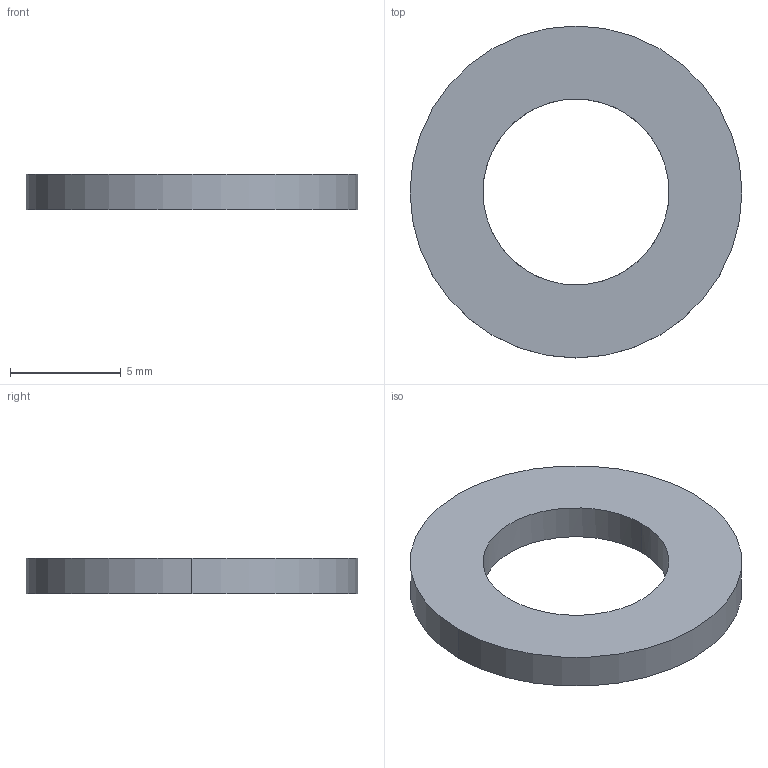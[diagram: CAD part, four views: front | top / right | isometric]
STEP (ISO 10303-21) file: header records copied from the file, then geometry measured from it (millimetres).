
FILE_DESCRIPTION(('3DEXPERIENCE STEP','CAx-IF Rec.Pracs.--- Model Styling and Organization---1.5--- 2016-08-15','CAx-IF Rec.Pracs.---Supplemental Geometry---1.0---2011-11-01','CAx-IF Rec.Pracs.--- Composite Materials ---3.4---2017-06-13','CAx-IF Rec.Pracs.---Tessellated 3D Geometry---1.0---2015-12-17'),'2;1');
FILE_NAME('\\?\D:\School\CarTech\CTU.25\Tutorials\Model\OEM\Washer_8.stp','2024-09-26T02:48:46+00:00',('none'),('none'),'3DEXPERIENCE Platform3DEXPERIENCE R2024x HotFix 4.24','3DEXPERIENCE Platform STEP AP242 v3','none');
FILE_SCHEMA(('AP242_MANAGED_MODEL_BASED_3D_ENGINEERING_MIM_LF {1 0 10303 442 1 1 4}'));
Length unit declared in the file: millimetre
Products named in the file (1): Washer_8_DIN_433
Bounding box: 15 x 15 x 1.6 mm (x, y, z)
Volume: 194.1 mm3; surface area: 360.2 mm2
Topology: 1 solids, 1 shells, 6 faces, 12 edges, 8 vertices
Faces by surface type: cylinder 4, plane 2
Entity records: 253 total; most frequent: CARTESIAN_POINT 117, ORIENTED_EDGE 24, DIRECTION 16, EDGE_CURVE 12, AXIS2_PLACEMENT_3D 9, EDGE_LOOP 8, VERTEX_POINT 8, ADVANCED_FACE 6
